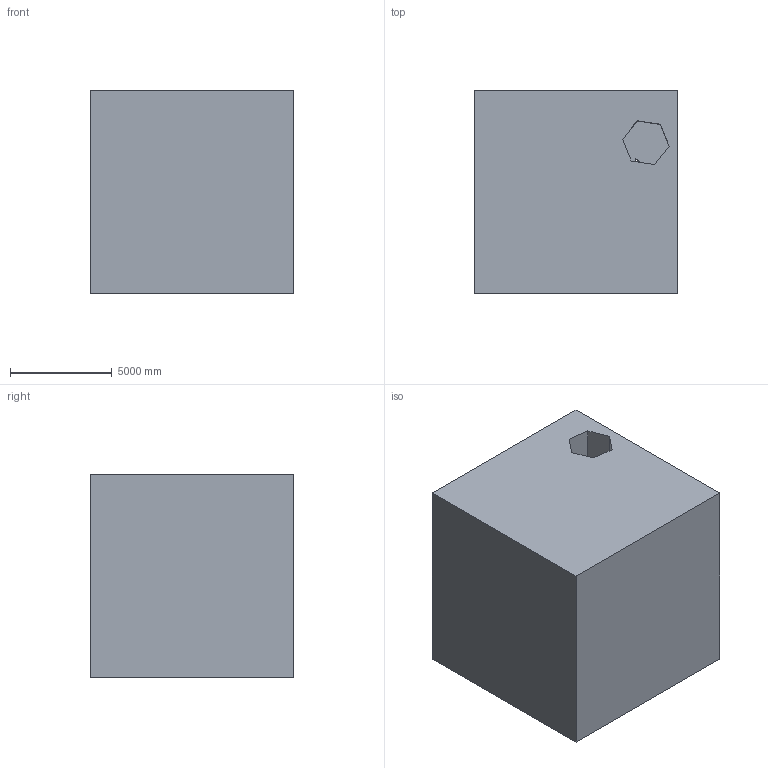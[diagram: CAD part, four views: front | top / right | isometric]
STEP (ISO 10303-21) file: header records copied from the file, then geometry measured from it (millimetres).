
FILE_DESCRIPTION (( 'STEP AP203' ), '1' );
FILE_NAME ('22.STEP', '2022-08-30T14:03:26', ( 'user' ), ( '' ), 'SwSTEP 2.0', 'SolidWorks 2021', '' );
FILE_SCHEMA (( 'CONFIG_CONTROL_DESIGN' ));
Length unit declared in the file: centimetre
Products named in the file (1): 22
Bounding box: 10000 x 10000 x 10000 mm (x, y, z)
Volume: 967266575317.5 mm3; surface area: 675807256.1 mm2
Topology: 1 solids, 1 shells, 20 faces, 57 edges, 38 vertices
Faces by surface type: plane 18, cylinder 2
Entity records: 728 total; most frequent: CARTESIAN_POINT 134, ORIENTED_EDGE 114, DIRECTION 95, EDGE_CURVE 57, LINE 49, VECTOR 49, VERTEX_POINT 38, AXIS2_PLACEMENT_3D 23
